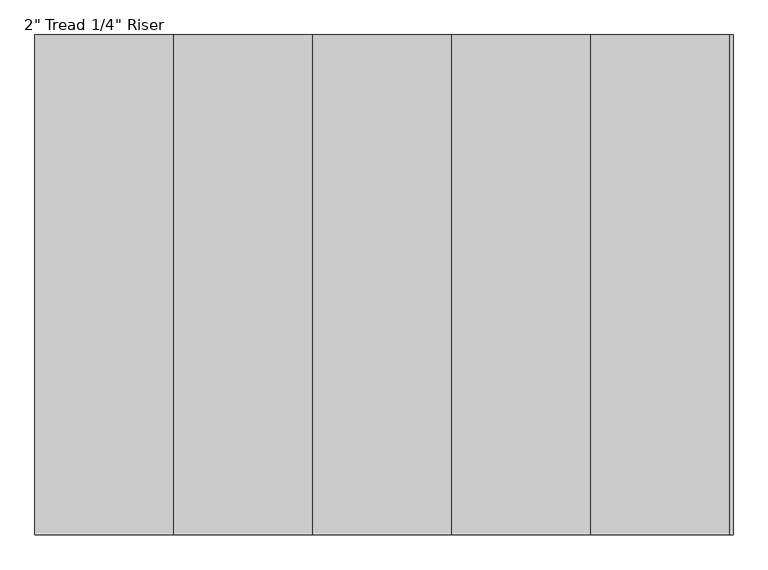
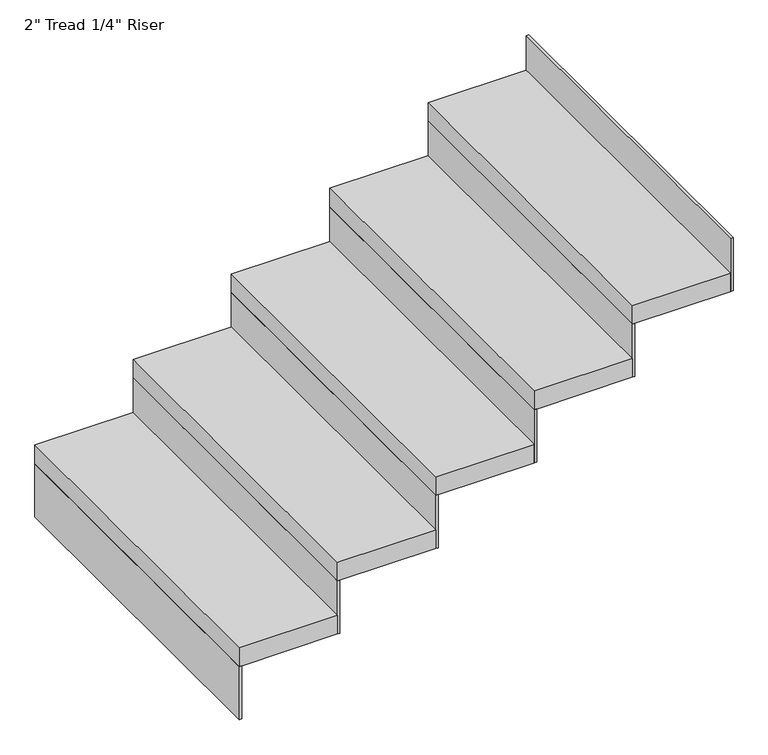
"""IFC4 building model written with IfcOpenShell, lengths in millimetres: stair flight geometry."""

from ifc_helpers import new_model, si_unit, frame, origin, place, context, project, spatial, polyline, outline, extrude, source, transform, mapped, element, save


def stair_flight_019ce01d(model_context):
    return source(origin(), model_context, "Body", "SweptSolid", [
        extrude(outline(polyline([(164309.4120703, -18948.6120358), (164303.0620703, -18948.6120358), (164303.0620703, -18034.2120358), (164309.4120703, -18034.2120358), (164309.4120703, -18948.6120358)])), frame((0.0, 0.0, 2126.3428571), z_axis=(0.0, 0.0, 1.0), x_axis=(1.0, 0.0, 0.0)), (0.0, 0.0, 1.0), 145.1428571),
        extrude(outline(polyline([(164557.0620703, -18034.2120358), (164557.0620703, -18948.6120358), (164303.0620703, -18948.6120358), (164303.0620703, -18034.2120358), (164557.0620703, -18034.2120358)])), frame((0.0, 0.0, 2271.4857143), z_axis=(0.0, 0.0, 1.0), x_axis=(1.0, 0.0, 0.0)), (0.0, 0.0, 1.0), 50.8),
        extrude(outline(polyline([(164563.4120703, -18948.6120358), (164557.0620703, -18948.6120358), (164557.0620703, -18034.2120358), (164563.4120703, -18034.2120358), (164563.4120703, -18948.6120358)])), frame((0.0, 0.0, 2271.4857143), z_axis=(0.0, 0.0, 1.0), x_axis=(1.0, 0.0, 0.0)), (0.0, 0.0, 1.0), 145.1428571),
        extrude(outline(polyline([(164811.0620703, -18034.2120358), (164811.0620703, -18948.6120358), (164557.0620703, -18948.6120358), (164557.0620703, -18034.2120358), (164811.0620703, -18034.2120358)])), frame((0.0, 0.0, 2416.6285714), z_axis=(0.0, 0.0, 1.0), x_axis=(1.0, 0.0, 0.0)), (0.0, 0.0, 1.0), 50.8),
        extrude(outline(polyline([(164817.4120703, -18948.6120358), (164811.0620703, -18948.6120358), (164811.0620703, -18034.2120358), (164817.4120703, -18034.2120358), (164817.4120703, -18948.6120358)])), frame((0.0, 0.0, 2416.6285714), z_axis=(0.0, 0.0, 1.0), x_axis=(1.0, 0.0, 0.0)), (0.0, 0.0, 1.0), 145.1428571),
        extrude(outline(polyline([(165065.0620703, -18034.2120358), (165065.0620703, -18948.6120358), (164811.0620703, -18948.6120358), (164811.0620703, -18034.2120358), (165065.0620703, -18034.2120358)])), frame((0.0, 0.0, 2561.7714286), z_axis=(0.0, 0.0, 1.0), x_axis=(1.0, 0.0, 0.0)), (0.0, 0.0, 1.0), 50.8),
        extrude(outline(polyline([(165071.4120703, -18948.6120358), (165065.0620703, -18948.6120358), (165065.0620703, -18034.2120358), (165071.4120703, -18034.2120358), (165071.4120703, -18948.6120358)])), frame((0.0, 0.0, 2561.7714286), z_axis=(0.0, 0.0, 1.0), x_axis=(1.0, 0.0, 0.0)), (0.0, 0.0, 1.0), 145.1428571),
        extrude(outline(polyline([(165319.0620703, -18034.2120358), (165319.0620703, -18948.6120358), (165065.0620703, -18948.6120358), (165065.0620703, -18034.2120358), (165319.0620703, -18034.2120358)])), frame((0.0, 0.0, 2706.9142857), z_axis=(0.0, 0.0, 1.0), x_axis=(1.0, 0.0, 0.0)), (0.0, 0.0, 1.0), 50.8),
        extrude(outline(polyline([(165325.4120703, -18948.6120358), (165319.0620703, -18948.6120358), (165319.0620703, -18034.2120358), (165325.4120703, -18034.2120358), (165325.4120703, -18948.6120358)])), frame((0.0, 0.0, 2706.9142857), z_axis=(0.0, 0.0, 1.0), x_axis=(1.0, 0.0, 0.0)), (0.0, 0.0, 1.0), 145.1428571),
        extrude(outline(polyline([(165579.4120703, -18948.6120358), (165573.0620703, -18948.6120358), (165573.0620703, -18034.2120358), (165579.4120703, -18034.2120358), (165579.4120703, -18948.6120358)])), frame((0.0, 0.0, 2852.0571429), z_axis=(0.0, 0.0, 1.0), x_axis=(1.0, 0.0, 0.0)), (0.0, 0.0, 1.0), 145.1428571),
        extrude(outline(polyline([(165573.0620703, -18034.2120358), (165573.0620703, -18948.6120358), (165319.0620703, -18948.6120358), (165319.0620703, -18034.2120358), (165573.0620703, -18034.2120358)])), frame((0.0, 0.0, 2852.0571429), z_axis=(0.0, 0.0, 1.0), x_axis=(1.0, 0.0, 0.0)), (0.0, 0.0, 1.0), 50.8),
    ])


if __name__ == "__main__":
    model = new_model("IFC4")
    model_context = context("Model", 3, world=origin())
    ifc_project = project(units=[si_unit("LENGTHUNIT", "METRE", prefix="MILLI")], contexts=[model_context])
    site = spatial("IfcSite", under=ifc_project)
    building = spatial("IfcBuilding", under=site)
    placement = place(None, origin())
    stair_flight_shape = stair_flight_019ce01d(model_context)
    element("IfcStairFlight", 1, ObjectType="2\" Tread 1/4\" Riser", at=placement, inside=building, context=model_context, shape_type="MappedRepresentation", body=[
        mapped(stair_flight_shape, transform((0.0, 0.0, 0.0), x_axis=(1.0, 0.0, 0.0), y_axis=(0.0, 1.0, 0.0), z_axis=(0.0, 0.0, 1.0))),
    ])
    save(model, "model.ifc")
